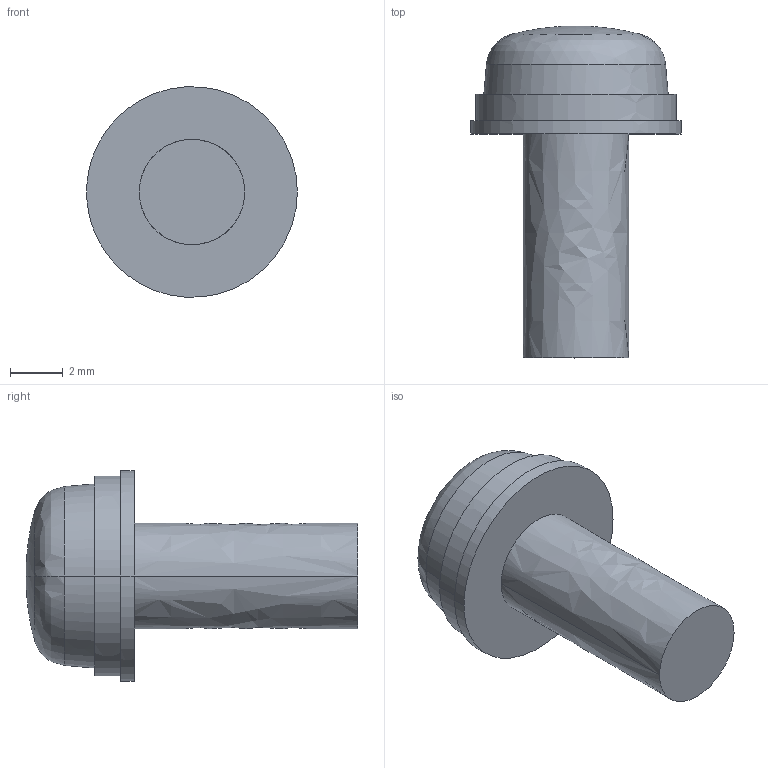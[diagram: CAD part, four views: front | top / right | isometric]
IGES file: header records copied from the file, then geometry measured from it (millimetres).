
Start section:  PTC IGES file: sw-pw-p-na-m4x10.igs
Global section: file name: sw-pw-p-na-m4x10.igs; native system: Pro/ENGINEER by Parametric Technology Corporation; preprocessor: 2010160; author: JE18792; organization: Unknown; date: 20121101.154102; units: millimetre
Bounding box: 8 x 12.6 x 7.99 mm (x, y, z)
Volume: 258.4 mm3; surface area: 279.5 mm2
Topology: 1 solids, 1 shells, 16 faces, 32 edges, 19 vertices
Faces by surface type: bspline 16
